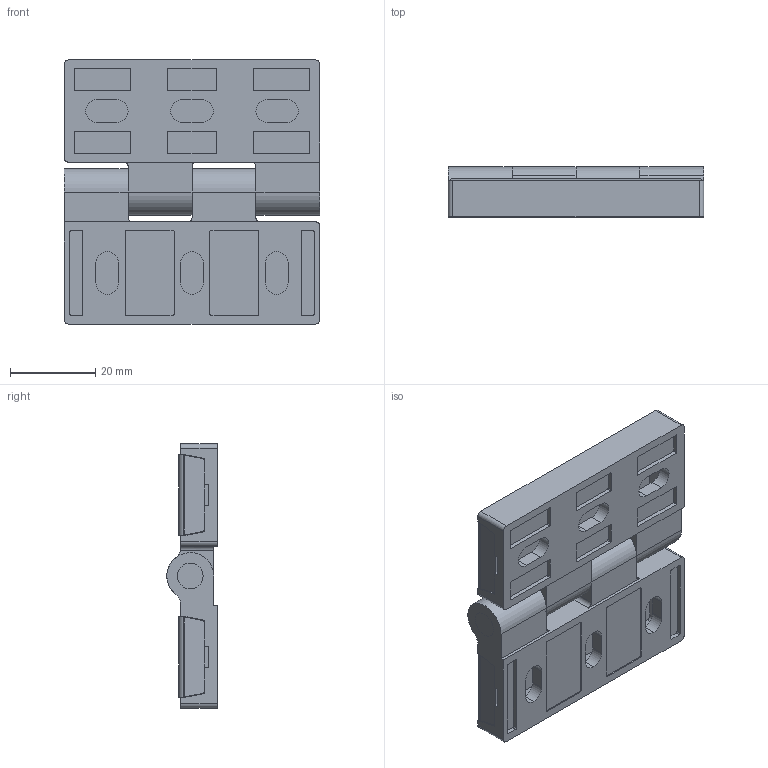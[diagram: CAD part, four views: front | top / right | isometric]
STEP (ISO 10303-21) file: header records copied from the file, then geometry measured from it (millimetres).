
FILE_DESCRIPTION (( 'STEP AP203' ), '1' );
FILE_NAME ('XG02-005-4S-3.STEP', '2025-10-28T05:35:54', ( '微软用户' ), ( '微软中国' ), 'SwSTEP 2.0', 'SolidWorks 2024', '' );
FILE_SCHEMA (( 'CONFIG_CONTROL_DESIGN' ));
Length unit declared in the file: millimetre
Products named in the file (5): XG02-005-4S-3_PART3; XG02-005-4S-3_PART1; XG02-005-4S-3; XG02-005-4S-3_PART2; XG02-005-4S-3_PART4
Assembly tree (5 placements, depth 2):
  XG02-005-4S-3
    XG02-005-4S-3_PART1
    XG02-005-4S-3_PART2
    XG02-005-4S-3_PART3
    XG02-005-4S-3_PART4  x2
Bounding box: 60 x 11.79 x 62 mm (x, y, z)
Volume: 21842.5 mm3; surface area: 20096.9 mm2
Topology: 5 solids, 5 shells, 306 faces, 841 edges, 558 vertices
Faces by surface type: plane 173, cylinder 133
Entity records: 9614 total; most frequent: CARTESIAN_POINT 1725, ORIENTED_EDGE 1558, DIRECTION 1531, EDGE_CURVE 779, VECTOR 523, LINE 523, VERTEX_POINT 518, AXIS2_PLACEMENT_3D 504
